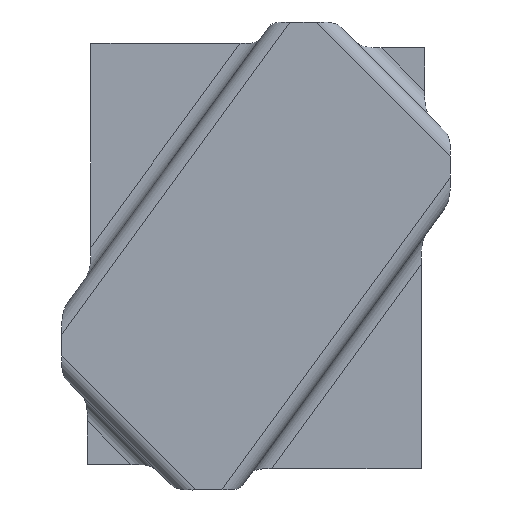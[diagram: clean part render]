
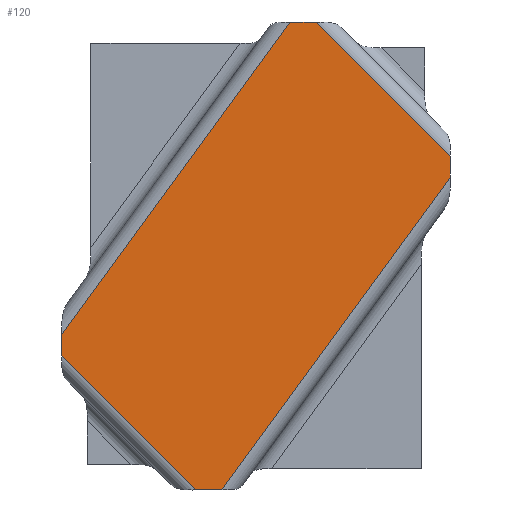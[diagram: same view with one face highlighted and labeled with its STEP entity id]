
A CAD part, top view. The second image highlights one B-rep face of the part: STEP entity #120.
In plain terms, the highlighted planar face has unit normal (0, 0, -1).
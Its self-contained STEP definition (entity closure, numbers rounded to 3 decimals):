
#53=CARTESIAN_POINT('Axis2P3D Location',(-51.96,37.95,64.843)) ;
#59=CARTESIAN_POINT('Control Point',(-51.96,77.189,64.843)) ;
#60=CARTESIAN_POINT('Control Point',(5.564,155.95,64.843)) ;
#61=CARTESIAN_POINT('Vertex',(-51.96,77.189,64.843)) ;
#63=CARTESIAN_POINT('Vertex',(5.564,155.95,64.843)) ;
#66=CARTESIAN_POINT('Line Origine',(-2.96,155.95,64.843)) ;
#70=CARTESIAN_POINT('Vertex',(12.214,155.95,64.843)) ;
#74=CARTESIAN_POINT('Control Point',(12.214,155.95,64.843)) ;
#75=CARTESIAN_POINT('Control Point',(46.04,122.124,64.843)) ;
#76=CARTESIAN_POINT('Vertex',(46.04,122.124,64.843)) ;
#79=CARTESIAN_POINT('Line Origine',(46.04,96.95,64.843)) ;
#83=CARTESIAN_POINT('Vertex',(46.04,116.839,64.843)) ;
#87=CARTESIAN_POINT('Control Point',(46.04,116.839,64.843)) ;
#88=CARTESIAN_POINT('Control Point',(-11.578,37.95,64.843)) ;
#89=CARTESIAN_POINT('Vertex',(-11.578,37.95,64.843)) ;
#92=CARTESIAN_POINT('Line Origine',(-2.96,37.95,64.843)) ;
#96=CARTESIAN_POINT('Vertex',(-18.134,37.95,64.843)) ;
#100=CARTESIAN_POINT('Control Point',(-51.96,71.776,64.843)) ;
#101=CARTESIAN_POINT('Control Point',(-18.134,37.95,64.843)) ;
#102=CARTESIAN_POINT('Vertex',(-51.96,71.776,64.843)) ;
#105=CARTESIAN_POINT('Line Origine',(-51.96,96.95,64.843)) ;
#54=DIRECTION('Axis2P3D Direction',(0.,0.,1.)) ;
#55=DIRECTION('Axis2P3D XDirection',(1.,0.,0.)) ;
#67=DIRECTION('Vector Direction',(1.,0.,0.)) ;
#80=DIRECTION('Vector Direction',(0.,1.,0.)) ;
#93=DIRECTION('Vector Direction',(1.,0.,0.)) ;
#106=DIRECTION('Vector Direction',(0.,1.,0.)) ;
#56=AXIS2_PLACEMENT_3D('Plane Axis2P3D',#53,#54,#55) ;
#111=ORIENTED_EDGE('',*,*,#65,.T.) ;
#112=ORIENTED_EDGE('',*,*,#72,.T.) ;
#113=ORIENTED_EDGE('',*,*,#78,.T.) ;
#114=ORIENTED_EDGE('',*,*,#85,.T.) ;
#115=ORIENTED_EDGE('',*,*,#91,.T.) ;
#116=ORIENTED_EDGE('',*,*,#98,.T.) ;
#117=ORIENTED_EDGE('',*,*,#104,.F.) ;
#118=ORIENTED_EDGE('',*,*,#109,.T.) ;
#68=VECTOR('Line Direction',#67,1.) ;
#81=VECTOR('Line Direction',#80,1.) ;
#94=VECTOR('Line Direction',#93,1.) ;
#107=VECTOR('Line Direction',#106,1.) ;
#120=ADVANCED_FACE('Offset.1',(#119),#57,.F.) ;
#58=B_SPLINE_CURVE_WITH_KNOTS('',1,(#59,#60),.UNSPECIFIED.,.F.,.U.,(2,2),(-48.766,48.766),.UNSPECIFIED.) ;
#73=B_SPLINE_CURVE_WITH_KNOTS('',1,(#74,#75),.UNSPECIFIED.,.F.,.U.,(2,2),(-23.919,23.919),.UNSPECIFIED.) ;
#86=B_SPLINE_CURVE_WITH_KNOTS('',1,(#87,#88),.UNSPECIFIED.,.F.,.U.,(2,2),(-48.845,48.845),.UNSPECIFIED.) ;
#99=B_SPLINE_CURVE_WITH_KNOTS('',1,(#100,#101),.UNSPECIFIED.,.F.,.U.,(2,2),(-23.919,23.919),.UNSPECIFIED.) ;
#65=EDGE_CURVE('',#62,#64,#58,.T.) ;
#72=EDGE_CURVE('',#64,#71,#69,.T.) ;
#78=EDGE_CURVE('',#71,#77,#73,.T.) ;
#85=EDGE_CURVE('',#77,#84,#82,.F.) ;
#91=EDGE_CURVE('',#84,#90,#86,.T.) ;
#98=EDGE_CURVE('',#90,#97,#95,.F.) ;
#104=EDGE_CURVE('',#103,#97,#99,.T.) ;
#109=EDGE_CURVE('',#103,#62,#108,.T.) ;
#110=EDGE_LOOP('',(#111,#112,#113,#114,#115,#116,#117,#118)) ;
#119=FACE_OUTER_BOUND('',#110,.T.) ;
#69=LINE('Line',#66,#68) ;
#82=LINE('Line',#79,#81) ;
#95=LINE('Line',#92,#94) ;
#108=LINE('Line',#105,#107) ;
#57=PLANE('',#56) ;
#62=VERTEX_POINT('',#61) ;
#64=VERTEX_POINT('',#63) ;
#71=VERTEX_POINT('',#70) ;
#77=VERTEX_POINT('',#76) ;
#84=VERTEX_POINT('',#83) ;
#90=VERTEX_POINT('',#89) ;
#97=VERTEX_POINT('',#96) ;
#103=VERTEX_POINT('',#102) ;
